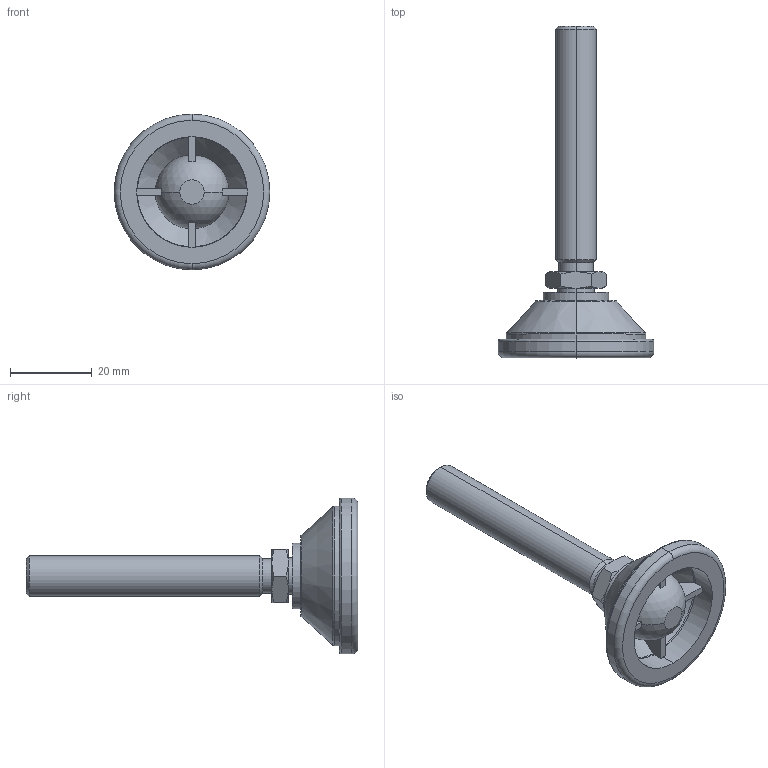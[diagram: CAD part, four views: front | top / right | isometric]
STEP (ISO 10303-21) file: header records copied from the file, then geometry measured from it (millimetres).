
FILE_DESCRIPTION (( 'STEP AP203' ), '1' );
FILE_NAME ('3472.W102.step', '2009-10-21T16:58:56', ( 'Wixroyd' ), ( 'Wixroyd' ), 'SwSTEP 2.0', 'SolidWorks 2009', '' );
FILE_SCHEMA (( 'CONFIG_CONTROL_DESIGN' ));
Length unit declared in the file: millimetre
Products named in the file (3): Part1_3472W102; Part2_3472W102; 3472.W102
Assembly tree (2 placements, depth 2):
  3472.W102
    Part2_3472W102
    Part1_3472W102
Bounding box: 38 x 81 x 38 mm (x, y, z)
Volume: 13365.1 mm3; surface area: 7805.5 mm2
Topology: 2 solids, 2 shells, 82 faces, 200 edges, 124 vertices
Faces by surface type: plane 26, cone 22, cylinder 16, torus 12, sphere 6
Entity records: 2787 total; most frequent: CARTESIAN_POINT 597, DIRECTION 432, ORIENTED_EDGE 382, AXIS2_PLACEMENT_3D 194, EDGE_CURVE 191, VERTEX_POINT 119, CIRCLE 107, EDGE_LOOP 88
